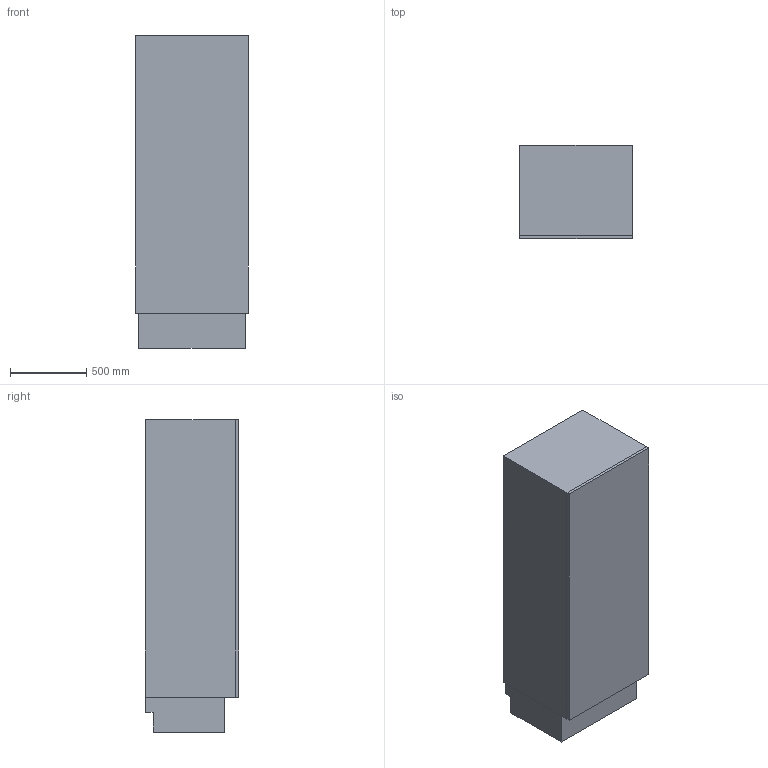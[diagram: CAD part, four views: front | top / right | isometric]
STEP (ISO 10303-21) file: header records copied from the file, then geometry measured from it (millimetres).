
FILE_DESCRIPTION(/* description */ (''),/* implementation_level */ '2;1');
FILE_NAME(/* name */ 'CO7205TVIL',/* time_stamp */ '2025-12-15T18:56:56+01:00',/* author */ (''),/* organization */ (''),/* preprocessor_version */ 'ST-DEVELOPER v16.5',/* originating_system */ 'Rhino 7.38',/* authorisation */ '');
FILE_SCHEMA (('AUTOMOTIVE_DESIGN'));
Length unit declared in the file: millimetre
Products named in the file (1): Document
Bounding box: 737 x 610 x 2050 mm (x, y, z)
Volume: 896443099 mm3; surface area: 9749198 mm2
Topology: 3 solids, 3 shells, 20 faces, 42 edges, 28 vertices
Faces by surface type: plane 20
Entity records: 506 total; most frequent: CARTESIAN_POINT 134, ORIENTED_EDGE 84, EDGE_CURVE 42, B_SPLINE_CURVE_WITH_KNOTS 42, VERTEX_POINT 28, DIRECTION 24, AXIS2_PLACEMENT_3D 22, ADVANCED_FACE 20
